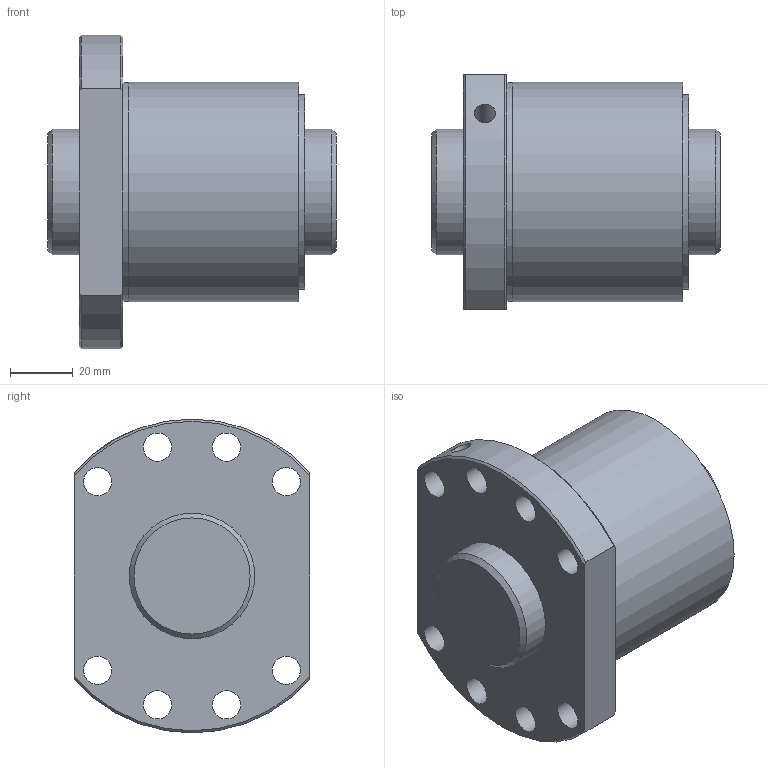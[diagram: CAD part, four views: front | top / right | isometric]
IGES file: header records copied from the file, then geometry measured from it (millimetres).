
Start section: Data from Parasolid IGES Translator 26.0.171, Copyright(c) 2006 Siemens PLM Software. All Rights Reserved.
Global section: file name: SDA4012VA-5G0+92LC0(0G000).igs; native system: By Siemens PLM Incorporated; preprocessor: XPlus GENERIC/IGES 26.0.171; author: Noname; organization: Noname; date: 20240528.114211; units: millimetre
Bounding box: 92 x 75 x 100 mm (x, y, z)
Surface area: 53381.3 mm2 (no closed solid volume)
Topology: 0 solids, 0 shells, 33 faces, 158 edges, 139 vertices
Faces by surface type: revolution 24, extrusion 9
